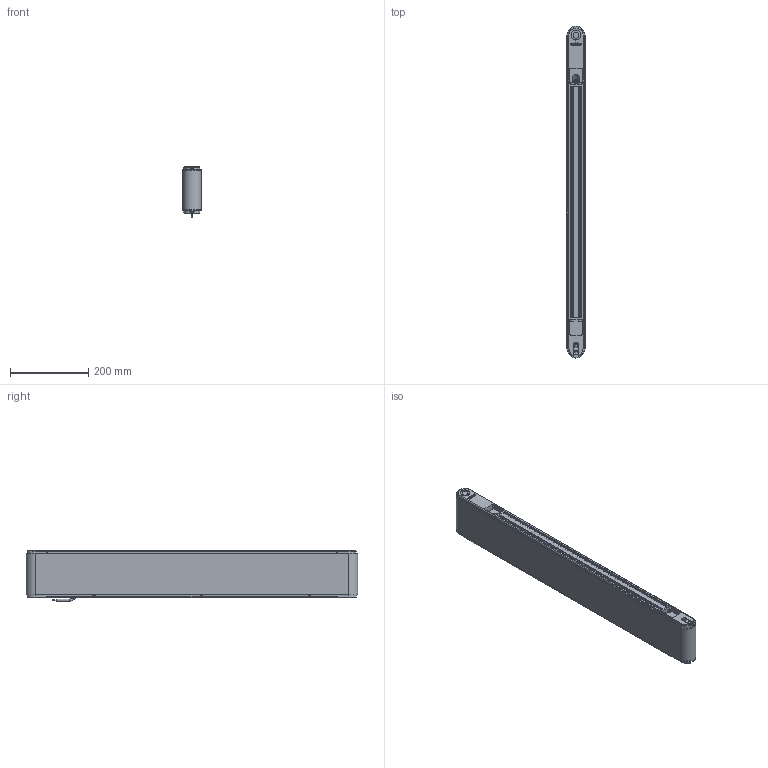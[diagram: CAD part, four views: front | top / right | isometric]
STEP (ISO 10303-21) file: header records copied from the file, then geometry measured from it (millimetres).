
FILE_DESCRIPTION(/* description */ (''),/* implementation_level */ '2;1');
FILE_NAME(/* name */ 'G:\DATEN\CAD\Förderband\Marketing\3D-Modelle (Standard)\FR-40-120\FR-40-120-800-K.stp',/* time_stamp */ '2019-05-08T08:33:58+02:00',/* author */ ('melanie.ochs'),/* organization */ (''),/* preprocessor_version */ 'ST-DEVELOPER v17',/* originating_system */ 'Autodesk Inventor 2019',/* authorisation */ '');
FILE_SCHEMA (('CONFIG_CONTROL_DESIGN'));
Length unit declared in the file: centimetre
Products named in the file (1): FR-40-120-800-K
Bounding box: 46.6 x 846.6 x 128.53 mm (x, y, z)
Volume: 1784705.5 mm3; surface area: 807229 mm2
Topology: 6 solids, 29 shells, 1039 faces, 2831 edges, 1892 vertices
Faces by surface type: plane 533, cylinder 287, bspline 122, cone 72, torus 25
Full cylindrical faces by diameter (mm): 2 x2, 4 x6, 4.3 x4, 4.64 x2, 4.917 x3, 5 x11, 5.5 x8, 6 x6, 6.5 x1, 6.647 x3, 8 x4, 8.3 x6, 8.5 x8, 8.773 x1, 10 x1, 11 x1, 12 x4, 15 x4, 20 x4, 25 x2, 28 x4
Entity records: 35420 total; most frequent: CARTESIAN_POINT 8396, ORIENTED_EDGE 5638, DIRECTION 5111, EDGE_CURVE 2819, VERTEX_POINT 1892, AXIS2_PLACEMENT_3D 1773, LINE 1565, VECTOR 1565
